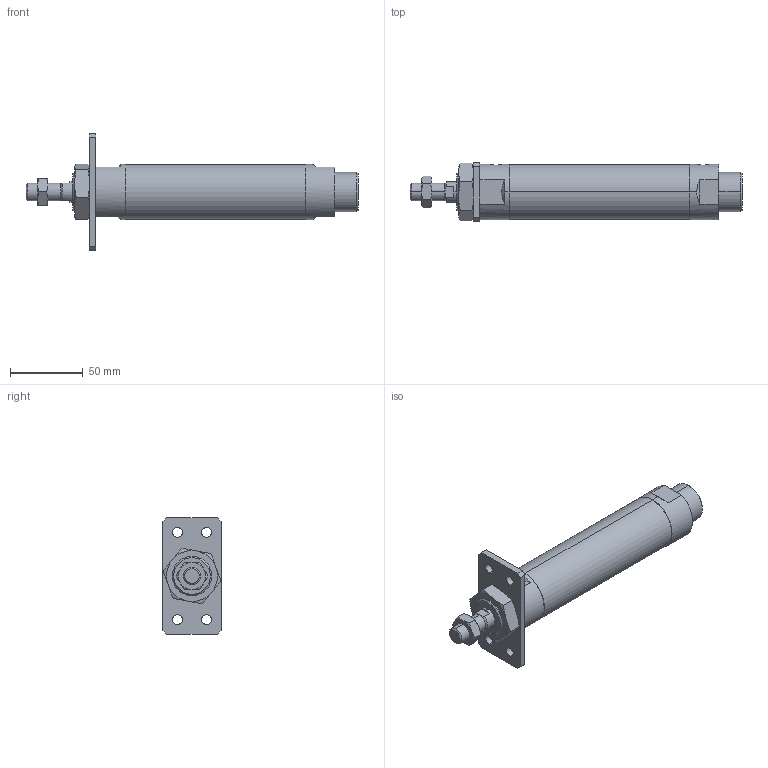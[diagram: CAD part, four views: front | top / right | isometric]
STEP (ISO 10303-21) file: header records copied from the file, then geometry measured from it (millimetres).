
FILE_DESCRIPTION (( 'STEP AP203' ), '1' );
FILE_NAME ('J#2-32-75-A.STEP', '2016-03-08T07:34:06', ( '' ), ( '' ), 'SwSTEP 2.0', 'SolidWorks 2014', '' );
FILE_SCHEMA (( 'CONFIG_CONTROL_DESIGN' ));
Length unit declared in the file: millimetre
Products named in the file (5): J#2-32-75; J#2-32-A; J#2-32-75-A
Assembly tree (4 placements, depth 2):
  J#2-32-75-A
    J#2-32-75
    (unnamed)
    (unnamed)
    J#2-32-A
Bounding box: 228 x 40 x 80 mm (x, y, z)
Volume: 219291.7 mm3; surface area: 37640.7 mm2
Topology: 4 solids, 4 shells, 114 faces, 264 edges, 161 vertices
Faces by surface type: plane 43, cylinder 32, torus 24, cone 15
Entity records: 4214 total; most frequent: CARTESIAN_POINT 1149, DIRECTION 537, ORIENTED_EDGE 520, EDGE_CURVE 260, AXIS2_PLACEMENT_3D 219, VERTEX_POINT 161, EDGE_LOOP 135, ADVANCED_FACE 114
